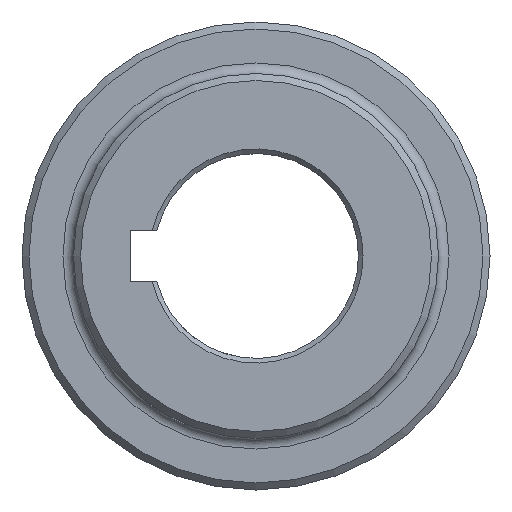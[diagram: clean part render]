
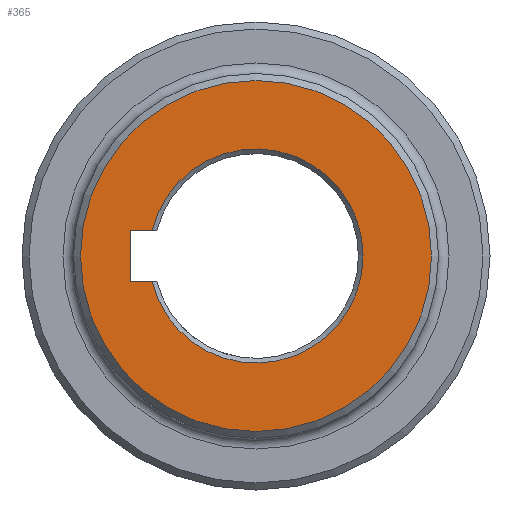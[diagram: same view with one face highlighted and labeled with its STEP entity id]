
A CAD part, left-side view. The second image highlights one B-rep face of the part: STEP entity #365.
In plain terms, the highlighted planar face has unit normal (-1, 0, 0).
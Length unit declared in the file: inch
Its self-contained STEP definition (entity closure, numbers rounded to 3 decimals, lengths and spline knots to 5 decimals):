
#38 = DIRECTION ( 'NONE',  ( 0., 1., 0. ) ) ;
#47 = CARTESIAN_POINT ( 'NONE',  ( 0., 0.88879, -0.2185 ) ) ;
#56 = VERTEX_POINT ( 'NONE', #47 ) ;
#85 = VECTOR ( 'NONE', #38, 39.37008 ) ;
#193 = CARTESIAN_POINT ( 'NONE',  ( 0., 1.07175, 0.2185 ) ) ;
#221 = VERTEX_POINT ( 'NONE', #193 ) ;
#260 = EDGE_LOOP ( 'NONE', ( #946 ) ) ;
#264 = VERTEX_POINT ( 'NONE', #1493 ) ;
#326 = DIRECTION ( 'NONE',  ( 1., 0., 0. ) ) ;
#359 = ORIENTED_EDGE ( 'NONE', *, *, #1568, .T. ) ;
#365 = ADVANCED_FACE ( 'NONE', ( #1076, #1674 ), #696, .F. ) ;
#406 = CARTESIAN_POINT ( 'NONE',  ( 0., 0., -0.2185 ) ) ;
#587 = LINE ( 'NONE', #1717, #1931 ) ;
#596 = LINE ( 'NONE', #1832, #85 ) ;
#647 = DIRECTION ( 'NONE',  ( 0., 0., -1. ) ) ;
#696 = PLANE ( 'NONE',  #1269 ) ;
#712 = DIRECTION ( 'NONE',  ( 0., -1., 0. ) ) ;
#844 = LINE ( 'NONE', #406, #966 ) ;
#880 = DIRECTION ( 'NONE',  ( 0., 0., -1. ) ) ;
#946 = ORIENTED_EDGE ( 'NONE', *, *, #1003, .T. ) ;
#954 = EDGE_CURVE ( 'NONE', #221, #2244, #587, .T. ) ;
#966 = VECTOR ( 'NONE', #712, 39.37008 ) ;
#999 = DIRECTION ( 'NONE',  ( 1., 0., 0. ) ) ;
#1003 = EDGE_CURVE ( 'NONE', #264, #264, #1733, .T. ) ;
#1076 = FACE_OUTER_BOUND ( 'NONE', #260, .T. ) ;
#1253 = CARTESIAN_POINT ( 'NONE',  ( 0., 0.88879, 0.2185 ) ) ;
#1269 = AXIS2_PLACEMENT_3D ( 'NONE', #1354, #326, #1605 ) ;
#1284 = ORIENTED_EDGE ( 'NONE', *, *, #954, .F. ) ;
#1314 = DIRECTION ( 'NONE',  ( 0., 0., -1. ) ) ;
#1354 = CARTESIAN_POINT ( 'NONE',  ( 0., 0., 0. ) ) ;
#1374 = CARTESIAN_POINT ( 'NONE',  ( 0., 0., 0. ) ) ;
#1492 = EDGE_LOOP ( 'NONE', ( #1509, #359, #2112, #1284 ) ) ;
#1493 = CARTESIAN_POINT ( 'NONE',  ( 0., 0., -1.5 ) ) ;
#1509 = ORIENTED_EDGE ( 'NONE', *, *, #2007, .F. ) ;
#1512 = AXIS2_PLACEMENT_3D ( 'NONE', #1374, #999, #647 ) ;
#1568 = EDGE_CURVE ( 'NONE', #1613, #56, #1769, .T. ) ;
#1605 = DIRECTION ( 'NONE',  ( 0., 0., -1. ) ) ;
#1613 = VERTEX_POINT ( 'NONE', #1253 ) ;
#1674 = FACE_BOUND ( 'NONE', #1492, .T. ) ;
#1717 = CARTESIAN_POINT ( 'NONE',  ( 0., 1.07175, -0.2185 ) ) ;
#1733 = CIRCLE ( 'NONE', #1772, 1.5 ) ;
#1769 = CIRCLE ( 'NONE', #1512, 0.91525 ) ;
#1772 = AXIS2_PLACEMENT_3D ( 'NONE', #2048, #1938, #880 ) ;
#1832 = CARTESIAN_POINT ( 'NONE',  ( 0., 0., 0.2185 ) ) ;
#1931 = VECTOR ( 'NONE', #1314, 39.37008 ) ;
#1938 = DIRECTION ( 'NONE',  ( -1., 0., 0. ) ) ;
#2007 = EDGE_CURVE ( 'NONE', #1613, #221, #596, .T. ) ;
#2048 = CARTESIAN_POINT ( 'NONE',  ( 0., 0., 0. ) ) ;
#2062 = CARTESIAN_POINT ( 'NONE',  ( 0., 1.07175, -0.2185 ) ) ;
#2112 = ORIENTED_EDGE ( 'NONE', *, *, #2175, .F. ) ;
#2175 = EDGE_CURVE ( 'NONE', #2244, #56, #844, .T. ) ;
#2244 = VERTEX_POINT ( 'NONE', #2062 ) ;
